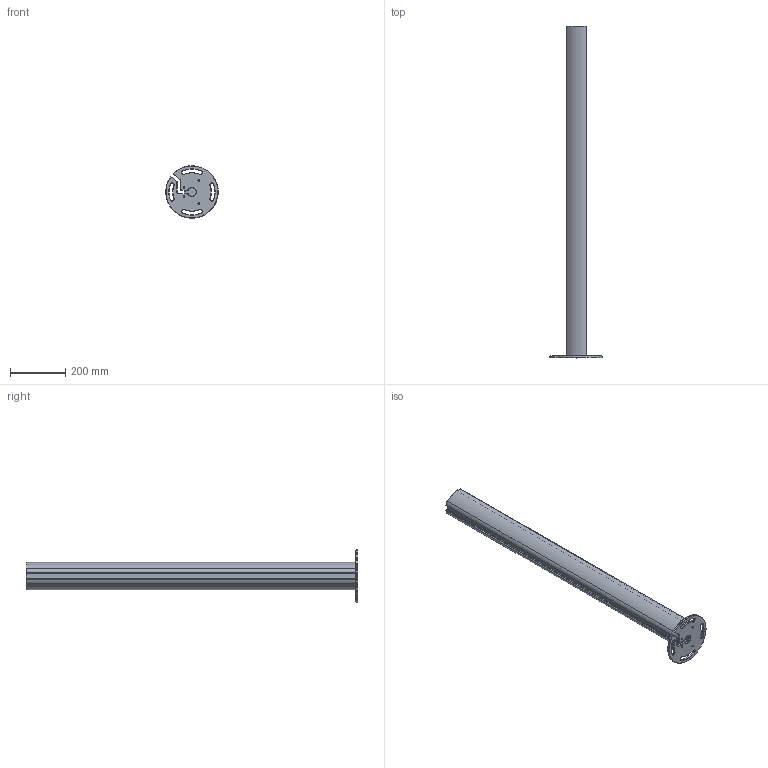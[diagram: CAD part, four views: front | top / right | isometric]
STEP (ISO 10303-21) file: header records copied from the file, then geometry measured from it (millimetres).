
FILE_DESCRIPTION((''),'2;1');
FILE_NAME('ESQC_ASM','2022-07-19T12:12:11',('18822879468'),(''),'CREO PARAMETRIC BY PTC INC, 2019010','CREO PARAMETRIC BY PTC INC, 2019010','');
FILE_SCHEMA(('CONFIG_CONTROL_DESIGN'));
Length unit declared in the file: millimetre
Products named in the file (5): 00; _-0001; _-0002; 000; ESQC_ASM
Assembly tree (4 placements, depth 2):
  ESQC_ASM
    00
    _-0001
    _-0002
    000
Bounding box: 189.81 x 1200 x 189.85 mm (x, y, z)
Volume: 1788694.5 mm3; surface area: 941007 mm2
Topology: 4 solids, 4 shells, 239 faces, 613 edges, 378 vertices
Faces by surface type: cylinder 98, plane 73, cone 68
Entity records: 7388 total; most frequent: DIRECTION 1365, CARTESIAN_POINT 1235, ORIENTED_EDGE 1218, EDGE_CURVE 609, AXIS2_PLACEMENT_3D 508, VERTEX_POINT 378, VECTOR 349, LINE 349
